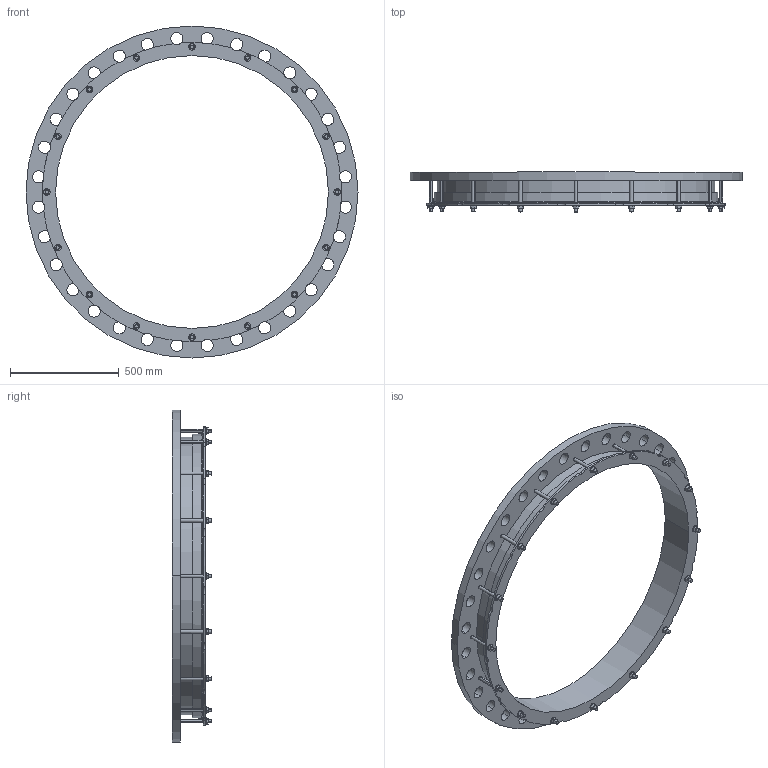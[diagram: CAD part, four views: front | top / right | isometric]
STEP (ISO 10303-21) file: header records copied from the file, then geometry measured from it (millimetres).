
FILE_DESCRIPTION((''),'2;1');
FILE_NAME('1255X1200PN25_16NOT','2019-04-04T',('mfairey'),('Glynwed Pipe Systems'),'CREO PARAMETRIC BY PTC INC, 2016130','CREO PARAMETRIC BY PTC INC, 2016130','');
FILE_SCHEMA(('CONFIG_CONTROL_DESIGN'));
Length unit declared in the file: millimetre
Products named in the file (1): 1255X1200PN25_16NOT
Bounding box: 1530 x 182 x 1530 mm (x, y, z)
Volume: 30433559.6 mm3; surface area: 2988832.4 mm2
Topology: 1 solids, 1 shells, 352 faces, 946 edges, 630 vertices
Faces by surface type: cylinder 198, plane 148, cone 4, torus 2
Entity records: 12802 total; most frequent: CARTESIAN_POINT 3518, DIRECTION 1938, ORIENTED_EDGE 1892, EDGE_CURVE 946, AXIS2_PLACEMENT_3D 724, VERTEX_POINT 630, VECTOR 490, LINE 490
